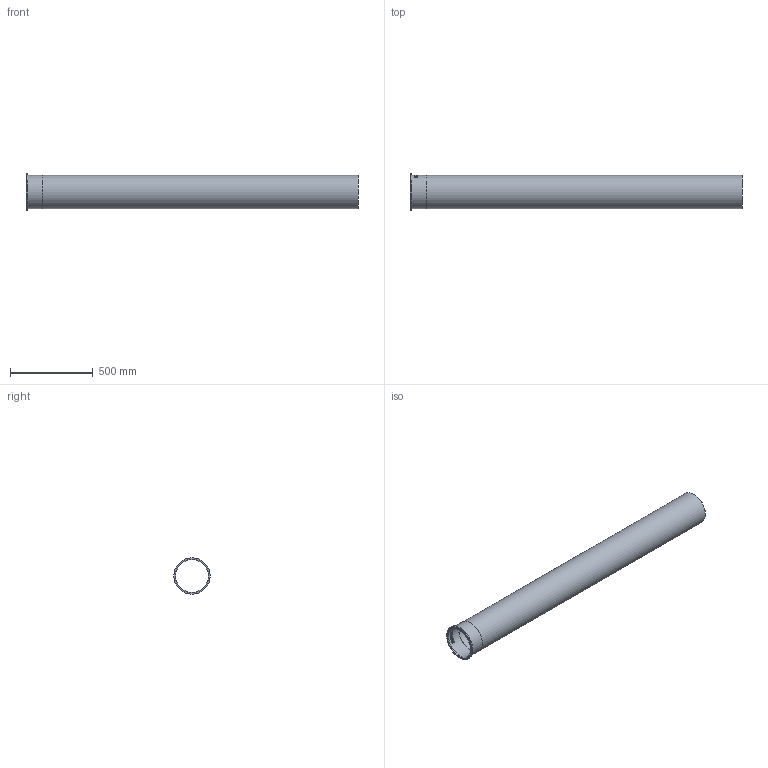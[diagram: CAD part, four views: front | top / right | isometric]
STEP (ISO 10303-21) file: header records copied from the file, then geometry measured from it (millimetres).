
FILE_DESCRIPTION((''),'2;1');
FILE_NAME('I:\WATTS\3D_CAD\3D_CAD_Models\Blucher_Drains\P_StraightPipe\WebsiteFiles\3D\STEP\P8-6.6-316.stp','2009-12-03T09:07:20',('menesek'),(''),'Autodesk Inventor 2010','Autodesk Inventor 2010','');
FILE_SCHEMA(('AUTOMOTIVE_DESIGN { 1 0 10303 214 1 1 1 1 }'));
Length unit declared in the file: inch
Products named in the file (1): P8-6.6-316
Bounding box: 2000 x 218.95 x 218.95 mm (x, y, z)
Volume: 1968636.2 mm3; surface area: 2508116.2 mm2
Topology: 1 solids, 1 shells, 109 faces, 285 edges, 190 vertices
Faces by surface type: plane 59, bspline 34, cylinder 16
Full cylindrical faces by diameter (mm): 196.85 x1, 199.898 x1, 200.914 x2, 218.948 x1
Entity records: 14215 total; most frequent: CARTESIAN_POINT 11837, ORIENTED_EDGE 548, DIRECTION 356, EDGE_CURVE 274, VERTEX_POINT 186, EDGE_LOOP 128, AXIS2_PLACEMENT_3D 120, VECTOR 116
